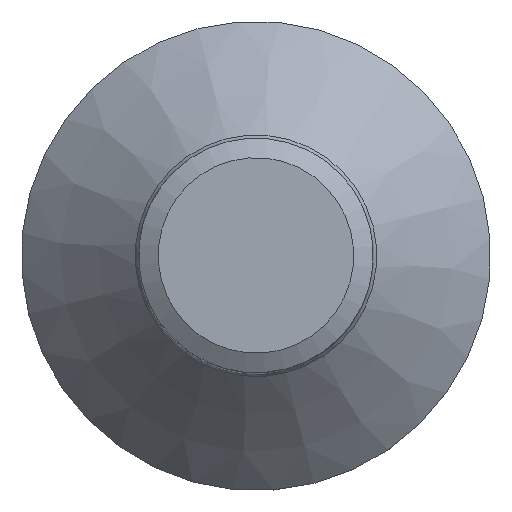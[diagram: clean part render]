
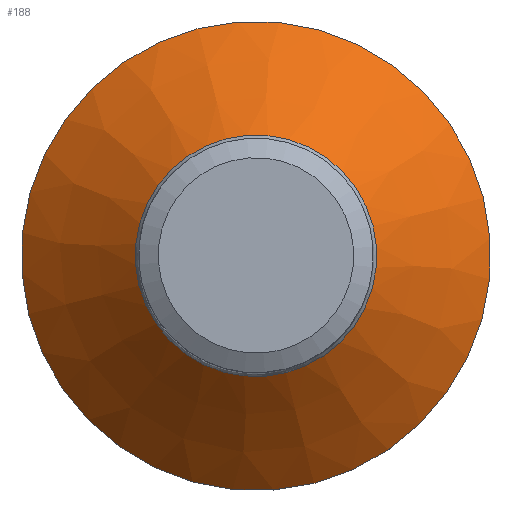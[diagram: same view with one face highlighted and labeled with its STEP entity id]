
A CAD part, top view. The second image highlights one B-rep face of the part: STEP entity #188.
In plain terms, the highlighted conical face has half-angle 45 degrees and reference radius 4.5 mm.
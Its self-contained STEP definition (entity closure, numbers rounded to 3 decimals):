
#154=CARTESIAN_POINT('',(0.763,-2.992,0.212));
#155=VERTEX_POINT('',#154);
#156=CARTESIAN_POINT('',(0.,0.,0.212));
#157=DIRECTION('',(0.,0.,1.));
#158=DIRECTION('',(-0.247,0.969,0.));
#159=AXIS2_PLACEMENT_3D('',#156,#157,#158);
#160=CIRCLE('',#159,3.088);
#161=EDGE_CURVE('',#155,#155,#160,.T.);
#169=CARTESIAN_POINT('',(0.,0.,-1.2));
#170=DIRECTION('',(0.,0.,-1.0));
#171=DIRECTION('',(0.247,-0.969,0.));
#172=AXIS2_PLACEMENT_3D('',#169,#170,#171);
#173=CONICAL_SURFACE('',#172,4.5,45.);
#174=CARTESIAN_POINT('',(1.483,-5.814,-2.7));
#175=VERTEX_POINT('',#174);
#176=CARTESIAN_POINT('',(0.,0.,-2.7));
#177=DIRECTION('',(0.,0.,1.));
#178=DIRECTION('',(0.247,-0.969,0.));
#179=AXIS2_PLACEMENT_3D('',#176,#177,#178);
#180=CIRCLE('',#179,6.0);
#181=EDGE_CURVE('',#175,#175,#180,.T.);
#182=ORIENTED_EDGE('',*,*,#181,.T.);
#183=EDGE_LOOP('',(#182));
#184=FACE_OUTER_BOUND('',#183,.T.);
#185=ORIENTED_EDGE('',*,*,#161,.F.);
#186=EDGE_LOOP('',(#185));
#187=FACE_BOUND('',#186,.T.);
#188=ADVANCED_FACE('',(#184,#187),#173,.T.);
